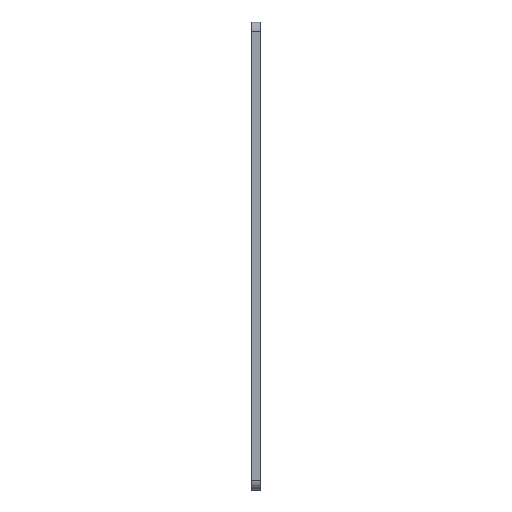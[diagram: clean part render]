
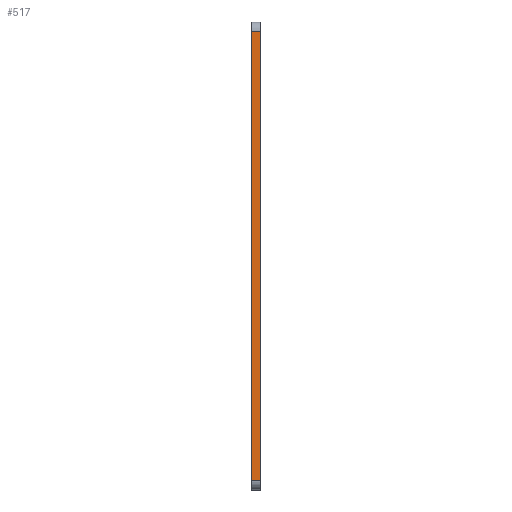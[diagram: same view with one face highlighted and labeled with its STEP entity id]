
A CAD part, left-side view. The second image highlights one B-rep face of the part: STEP entity #517.
In plain terms, the highlighted planar face has unit normal (-1, 0, 0).
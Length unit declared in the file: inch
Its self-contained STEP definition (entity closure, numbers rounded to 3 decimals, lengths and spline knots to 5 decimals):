
#33 = LINE ( 'NONE', #656, #348 ) ;
#179 = VECTOR ( 'NONE', #800, 39.37008 ) ;
#227 = LINE ( 'NONE', #1622, #1413 ) ;
#278 = FACE_OUTER_BOUND ( 'NONE', #1281, .T. ) ;
#289 = CARTESIAN_POINT ( 'NONE',  ( 0., -0.25, 0. ) ) ;
#290 = VERTEX_POINT ( 'NONE', #1357 ) ;
#348 = VECTOR ( 'NONE', #504, 39.37008 ) ;
#366 = CARTESIAN_POINT ( 'NONE',  ( 0., -0.25, -0.25 ) ) ;
#414 = ORIENTED_EDGE ( 'NONE', *, *, #723, .T. ) ;
#422 = LINE ( 'NONE', #289, #179 ) ;
#445 = VERTEX_POINT ( 'NONE', #1151 ) ;
#504 = DIRECTION ( 'NONE',  ( 0., 0., 1. ) ) ;
#517 = ADVANCED_FACE ( 'NONE', ( #278 ), #873, .T. ) ;
#559 = DIRECTION ( 'NONE',  ( 0., 1., 0. ) ) ;
#616 = ORIENTED_EDGE ( 'NONE', *, *, #1392, .F. ) ;
#656 = CARTESIAN_POINT ( 'NONE',  ( 0., 0., 0. ) ) ;
#723 = EDGE_CURVE ( 'NONE', #1356, #738, #227, .T. ) ;
#738 = VERTEX_POINT ( 'NONE', #1360 ) ;
#743 = EDGE_CURVE ( 'NONE', #290, #1356, #422, .T. ) ;
#800 = DIRECTION ( 'NONE',  ( 0., 0., 1. ) ) ;
#873 = PLANE ( 'NONE',  #1645 ) ;
#890 = DIRECTION ( 'NONE',  ( 0., 0., 1. ) ) ;
#1151 = CARTESIAN_POINT ( 'NONE',  ( 0., 0., -12.25 ) ) ;
#1187 = ORIENTED_EDGE ( 'NONE', *, *, #743, .T. ) ;
#1220 = EDGE_CURVE ( 'NONE', #445, #290, #1523, .T. ) ;
#1281 = EDGE_LOOP ( 'NONE', ( #616, #1708, #1187, #414 ) ) ;
#1356 = VERTEX_POINT ( 'NONE', #366 ) ;
#1357 = CARTESIAN_POINT ( 'NONE',  ( 0., -0.25, -12.25 ) ) ;
#1360 = CARTESIAN_POINT ( 'NONE',  ( 0., 0., -0.25 ) ) ;
#1392 = EDGE_CURVE ( 'NONE', #445, #738, #33, .T. ) ;
#1413 = VECTOR ( 'NONE', #559, 39.37008 ) ;
#1414 = CARTESIAN_POINT ( 'NONE',  ( 0., -0.25, -12.25 ) ) ;
#1523 = LINE ( 'NONE', #1414, #1554 ) ;
#1554 = VECTOR ( 'NONE', #1577, 39.37008 ) ;
#1561 = DIRECTION ( 'NONE',  ( -1., 0., 0. ) ) ;
#1577 = DIRECTION ( 'NONE',  ( 0., -1., 0. ) ) ;
#1622 = CARTESIAN_POINT ( 'NONE',  ( 0., -0.25, -0.25 ) ) ;
#1645 = AXIS2_PLACEMENT_3D ( 'NONE', #1698, #1561, #890 ) ;
#1698 = CARTESIAN_POINT ( 'NONE',  ( 0., -0.25, 0. ) ) ;
#1708 = ORIENTED_EDGE ( 'NONE', *, *, #1220, .T. ) ;
